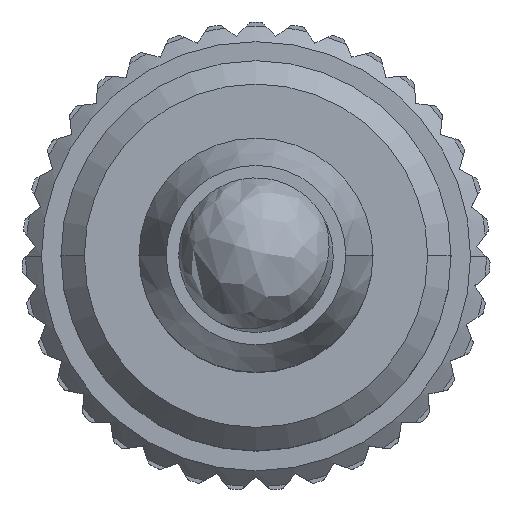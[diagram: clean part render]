
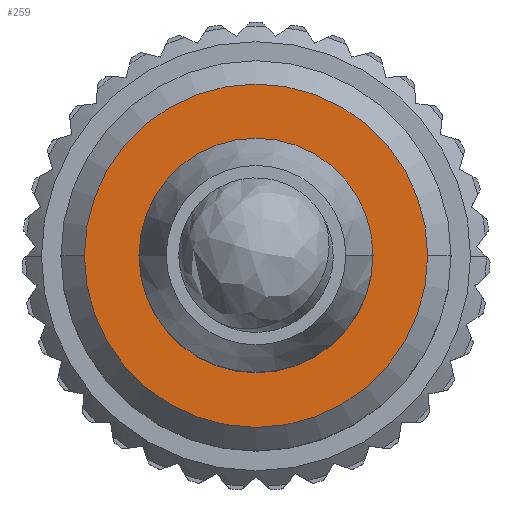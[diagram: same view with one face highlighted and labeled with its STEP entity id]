
A CAD part, top view. The second image highlights one B-rep face of the part: STEP entity #259.
In plain terms, the highlighted planar face has unit normal (0, 0, 1).
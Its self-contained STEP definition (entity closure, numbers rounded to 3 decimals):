
#259 = ADVANCED_FACE ( 'NONE', ( #4627, #4626 ), #4625, .F. ) ;
#260 = EDGE_LOOP ( 'NONE', ( #261, #262 ) ) ;
#261 = ORIENTED_EDGE ( 'NONE', *, *, #3113, .F. ) ;
#262 = ORIENTED_EDGE ( 'NONE', *, *, #273, .F. ) ;
#263 = EDGE_LOOP ( 'NONE', ( #264, #265 ) ) ;
#264 = ORIENTED_EDGE ( 'NONE', *, *, #3159, .F. ) ;
#265 = ORIENTED_EDGE ( 'NONE', *, *, #266, .F. ) ;
#266 = EDGE_CURVE ( 'NONE', #3161, #3160, #4620, .T. ) ;
#273 = EDGE_CURVE ( 'NONE', #3114, #3112, #4661, .T. ) ;
#3112 = VERTEX_POINT ( 'NONE', #9692 ) ;
#3113 = EDGE_CURVE ( 'NONE', #3112, #3114, #9691, .T. ) ;
#3114 = VERTEX_POINT ( 'NONE', #9686 ) ;
#3159 = EDGE_CURVE ( 'NONE', #3160, #3161, #9760, .T. ) ;
#3160 = VERTEX_POINT ( 'NONE', #9815 ) ;
#3161 = VERTEX_POINT ( 'NONE', #9814 ) ;
#4616 = DIRECTION ( 'NONE',  ( -1., 0., 0. ) ) ;
#4617 = DIRECTION ( 'NONE',  ( 0., 0., -1. ) ) ;
#4618 = CARTESIAN_POINT ( 'NONE',  ( 0., 0., 9. ) ) ;
#4619 = AXIS2_PLACEMENT_3D ( 'NONE', #4618, #4617, #4616 ) ;
#4620 = CIRCLE ( 'NONE', #4619, 4.4 ) ;
#4621 = DIRECTION ( 'NONE',  ( -1., 0., 0. ) ) ;
#4622 = DIRECTION ( 'NONE',  ( 0., 0., -1. ) ) ;
#4623 = CARTESIAN_POINT ( 'NONE',  ( 0., 0., 9. ) ) ;
#4624 = AXIS2_PLACEMENT_3D ( 'NONE', #4623, #4622, #4621 ) ;
#4625 = PLANE ( 'NONE',  #4624 ) ;
#4626 = FACE_OUTER_BOUND ( 'NONE', #263, .T. ) ;
#4627 = FACE_BOUND ( 'NONE', #260, .T. ) ;
#4658 = DIRECTION ( 'NONE',  ( 0., -1., 0. ) ) ;
#4659 = DIRECTION ( 'NONE',  ( 0., 0., 1. ) ) ;
#4660 = AXIS2_PLACEMENT_3D ( 'NONE', #4665, #4659, #4658 ) ;
#4661 = CIRCLE ( 'NONE', #4660, 3. ) ;
#4665 = CARTESIAN_POINT ( 'NONE',  ( 0., 0., 9. ) ) ;
#9686 = CARTESIAN_POINT ( 'NONE',  ( 0., 3., 9. ) ) ;
#9687 = DIRECTION ( 'NONE',  ( 0., -1., 0. ) ) ;
#9688 = DIRECTION ( 'NONE',  ( 0., 0., 1. ) ) ;
#9689 = CARTESIAN_POINT ( 'NONE',  ( 0., 0., 9. ) ) ;
#9690 = AXIS2_PLACEMENT_3D ( 'NONE', #9689, #9688, #9687 ) ;
#9691 = CIRCLE ( 'NONE', #9690, 3. ) ;
#9692 = CARTESIAN_POINT ( 'NONE',  ( 0., -3., 9. ) ) ;
#9758 = CARTESIAN_POINT ( 'NONE',  ( 0., 0., 9. ) ) ;
#9759 = AXIS2_PLACEMENT_3D ( 'NONE', #9758, #9817, #9816 ) ;
#9760 = CIRCLE ( 'NONE', #9759, 4.4 ) ;
#9814 = CARTESIAN_POINT ( 'NONE',  ( 4.4, 0., 9. ) ) ;
#9815 = CARTESIAN_POINT ( 'NONE',  ( -4.4, 0., 9. ) ) ;
#9816 = DIRECTION ( 'NONE',  ( -1., 0., 0. ) ) ;
#9817 = DIRECTION ( 'NONE',  ( 0., 0., -1. ) ) ;
